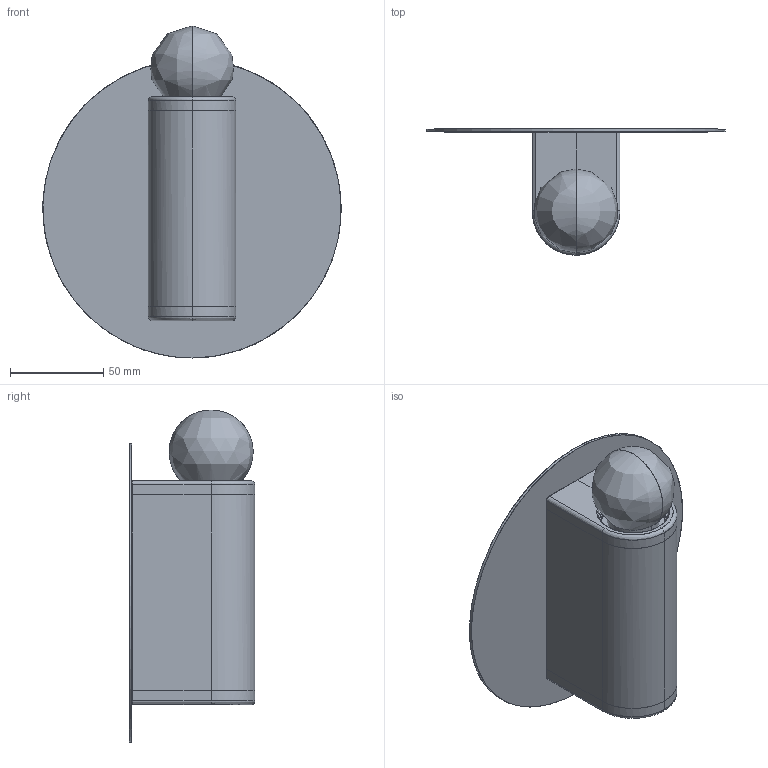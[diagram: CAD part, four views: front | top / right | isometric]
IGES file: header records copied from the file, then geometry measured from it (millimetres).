
Start section: Use this template file for building objects the size of a truck or smaller, and for objects which must be built to manufacturing tolerances. Units: Millimeters Absolute tolerance: .001 mm
Global section: file name: /Volumes/Company/WIP/Marlen/WFH/Website/SALES 3D/WPS/MA_WPS_D3_3D_2018/MA_White Porcelain Series D3_120V_2017.igs; preprocessor: Trout Lake IGES 012 Dec  4 2019; date: 201202.120339; units: millimetre
Bounding box: 160 x 67.5 x 177.98 mm (x, y, z)
Surface area: 84945.8 mm2 (no closed solid volume)
Topology: 0 solids, 0 shells, 124 faces, 917 edges, 913 vertices
Faces by surface type: bspline 124
